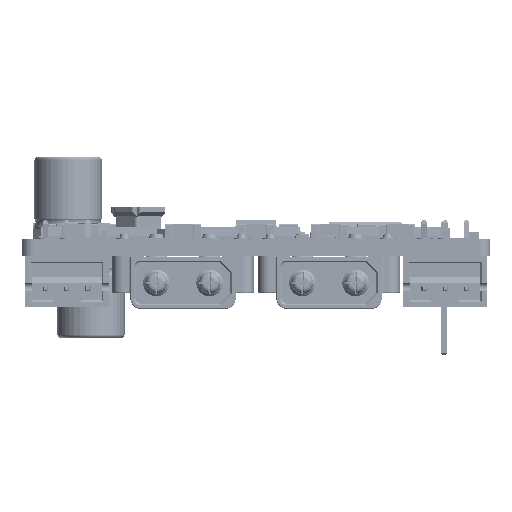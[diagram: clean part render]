
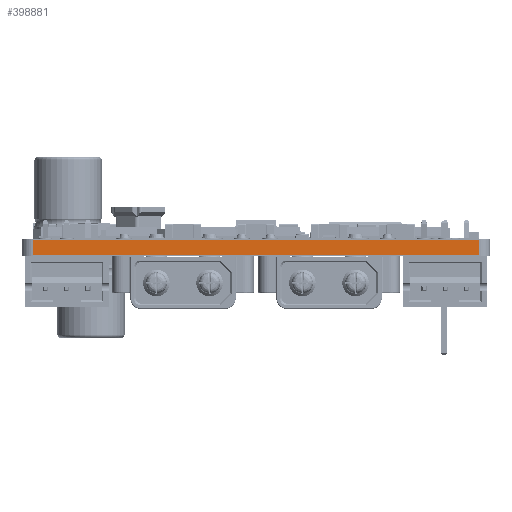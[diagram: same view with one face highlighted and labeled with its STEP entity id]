
A CAD part, front view. The second image highlights one B-rep face of the part: STEP entity #398881.
In plain terms, the highlighted planar face has unit normal (0, -1, 0).
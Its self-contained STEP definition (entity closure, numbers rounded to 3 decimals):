
#13117=PLANE('',#426240);
#28202=FACE_OUTER_BOUND('',#51550,.T.);
#51550=EDGE_LOOP('',(#278340,#278341,#278342,#278343));
#83016=LINE('',#587165,#124814);
#83017=LINE('',#587168,#124815);
#83018=LINE('',#587170,#124816);
#83019=LINE('',#587171,#124817);
#124814=VECTOR('',#467827,10.);
#124815=VECTOR('',#467830,10.);
#124816=VECTOR('',#467831,10.);
#124817=VECTOR('',#467832,10.);
#182688=VERTEX_POINT('',#587161);
#182689=VERTEX_POINT('',#587163);
#182690=VERTEX_POINT('',#587167);
#182691=VERTEX_POINT('',#587169);
#220336=EDGE_CURVE('',#182688,#182689,#83016,.T.);
#220337=EDGE_CURVE('',#182690,#182688,#83017,.T.);
#220338=EDGE_CURVE('',#182691,#182689,#83018,.T.);
#220339=EDGE_CURVE('',#182690,#182691,#83019,.T.);
#278340=ORIENTED_EDGE('',*,*,#220337,.T.);
#278341=ORIENTED_EDGE('',*,*,#220336,.T.);
#278342=ORIENTED_EDGE('',*,*,#220338,.F.);
#278343=ORIENTED_EDGE('',*,*,#220339,.F.);
#398881=ADVANCED_FACE('',(#28202),#13117,.T.);
#426240=AXIS2_PLACEMENT_3D('',#587166,#467828,#467829);
#467827=DIRECTION('',(0.,0.,1.));
#467828=DIRECTION('center_axis',(0.,-1.,0.));
#467829=DIRECTION('ref_axis',(1.,0.,0.));
#467830=DIRECTION('',(1.,0.,0.));
#467831=DIRECTION('',(1.,0.,0.));
#467832=DIRECTION('',(0.,0.,1.));
#587161=CARTESIAN_POINT('',(20.975,-49.,40.007));
#587163=CARTESIAN_POINT('',(20.975,-49.,41.445));
#587165=CARTESIAN_POINT('',(20.975,-49.,40.007));
#587166=CARTESIAN_POINT('Origin',(-20.975,-49.,40.007));
#587167=CARTESIAN_POINT('',(-20.975,-49.,40.007));
#587168=CARTESIAN_POINT('',(-20.975,-49.,40.007));
#587169=CARTESIAN_POINT('',(-20.975,-49.,41.445));
#587170=CARTESIAN_POINT('',(-20.975,-49.,41.445));
#587171=CARTESIAN_POINT('',(-20.975,-49.,40.007));
